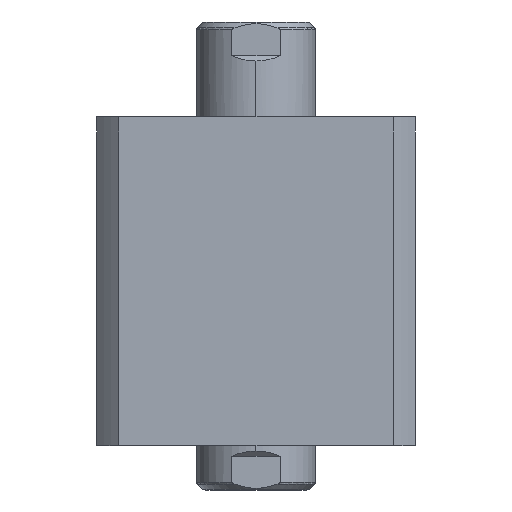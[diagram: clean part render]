
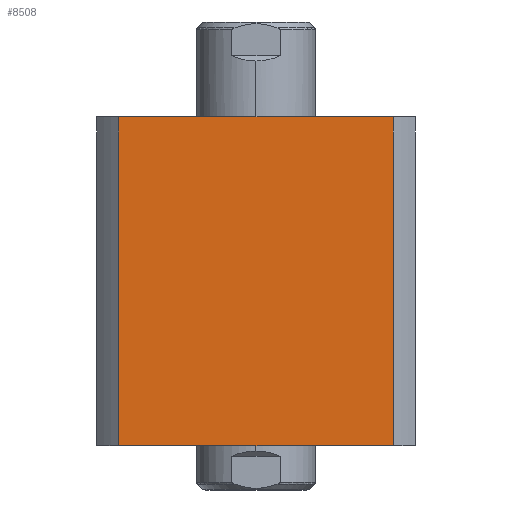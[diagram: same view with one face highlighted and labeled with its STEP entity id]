
A CAD part, left-side view. The second image highlights one B-rep face of the part: STEP entity #8508.
In plain terms, the highlighted planar face has unit normal (-1, 0, 0).
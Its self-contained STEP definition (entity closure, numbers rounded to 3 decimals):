
#832 = EDGE_CURVE ( 'NONE', #14400, #9815, #6597, .T. ) ;
#1592 = CARTESIAN_POINT ( 'NONE',  ( -47., -40.435, 300. ) ) ;
#1619 = VERTEX_POINT ( 'NONE', #15379 ) ;
#1668 = VECTOR ( 'NONE', #8375, 1000. ) ;
#1890 = EDGE_CURVE ( 'NONE', #14400, #4301, #9269, .T. ) ;
#2100 = CARTESIAN_POINT ( 'NONE',  ( -47., -40.435, 0. ) ) ;
#2714 = DIRECTION ( 'NONE',  ( 0., -1., 0. ) ) ;
#2782 = VECTOR ( 'NONE', #16948, 1000. ) ;
#3176 = ORIENTED_EDGE ( 'NONE', *, *, #4769, .F. ) ;
#4065 = CARTESIAN_POINT ( 'NONE',  ( -47., 47., 0. ) ) ;
#4301 = VERTEX_POINT ( 'NONE', #2100 ) ;
#4313 = PLANE ( 'NONE',  #5630 ) ;
#4769 = EDGE_CURVE ( 'NONE', #1619, #4301, #17388, .T. ) ;
#5014 = FACE_OUTER_BOUND ( 'NONE', #17939, .T. ) ;
#5434 = ORIENTED_EDGE ( 'NONE', *, *, #12059, .F. ) ;
#5630 = AXIS2_PLACEMENT_3D ( 'NONE', #15677, #14296, #5742 ) ;
#5742 = DIRECTION ( 'NONE',  ( 0., 1., 0. ) ) ;
#6165 = ORIENTED_EDGE ( 'NONE', *, *, #1890, .T. ) ;
#6597 = LINE ( 'NONE', #18308, #2782 ) ;
#8375 = DIRECTION ( 'NONE',  ( 0., -1., 0. ) ) ;
#8508 = ADVANCED_FACE ( 'NONE', ( #5014 ), #4313, .F. ) ;
#8909 = ORIENTED_EDGE ( 'NONE', *, *, #832, .F. ) ;
#9269 = LINE ( 'NONE', #4065, #1668 ) ;
#9815 = VERTEX_POINT ( 'NONE', #16167 ) ;
#10421 = VECTOR ( 'NONE', #2714, 1000. ) ;
#11258 = CARTESIAN_POINT ( 'NONE',  ( -47., 47., 97. ) ) ;
#12059 = EDGE_CURVE ( 'NONE', #9815, #1619, #14197, .T. ) ;
#13610 = VECTOR ( 'NONE', #15874, 1000. ) ;
#14197 = LINE ( 'NONE', #11258, #10421 ) ;
#14296 = DIRECTION ( 'NONE',  ( 1., 0., 0. ) ) ;
#14330 = CARTESIAN_POINT ( 'NONE',  ( -47., 40.435, 0. ) ) ;
#14400 = VERTEX_POINT ( 'NONE', #14330 ) ;
#15379 = CARTESIAN_POINT ( 'NONE',  ( -47., -40.435, 97. ) ) ;
#15677 = CARTESIAN_POINT ( 'NONE',  ( -47., 47., 97. ) ) ;
#15874 = DIRECTION ( 'NONE',  ( 0., 0., -1. ) ) ;
#16167 = CARTESIAN_POINT ( 'NONE',  ( -47., 40.435, 97. ) ) ;
#16948 = DIRECTION ( 'NONE',  ( 0., 0., 1. ) ) ;
#17388 = LINE ( 'NONE', #1592, #13610 ) ;
#17939 = EDGE_LOOP ( 'NONE', ( #3176, #5434, #8909, #6165 ) ) ;
#18308 = CARTESIAN_POINT ( 'NONE',  ( -47., 40.435, 300. ) ) ;
